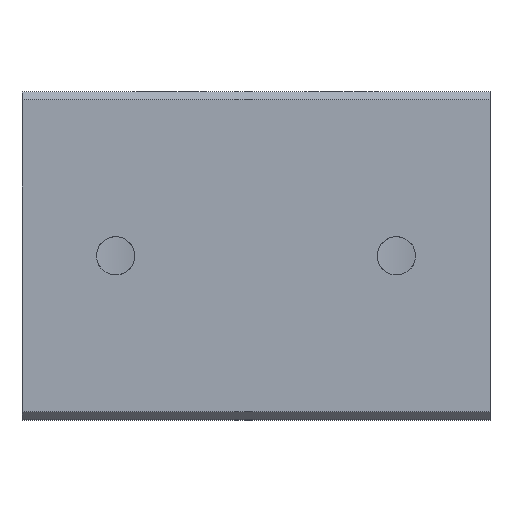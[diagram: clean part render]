
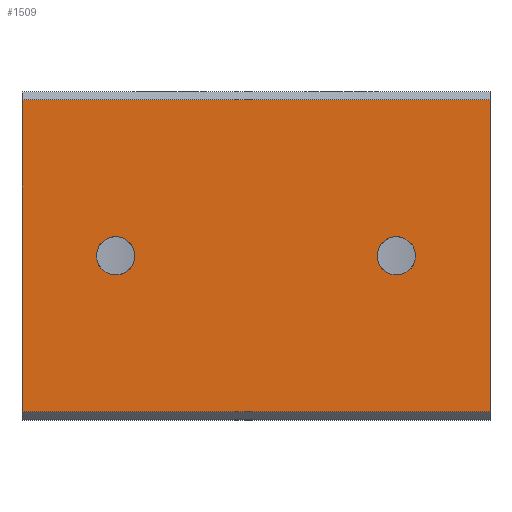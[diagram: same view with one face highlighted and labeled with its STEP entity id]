
A CAD part, top view. The second image highlights one B-rep face of the part: STEP entity #1509.
In plain terms, the highlighted planar face has unit normal (0, 0, 1).
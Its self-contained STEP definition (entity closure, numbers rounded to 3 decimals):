
#1357=CARTESIAN_POINT('',(60.0,-20.,28.));
#1358=VERTEX_POINT('',#1357);
#1365=CARTESIAN_POINT('',(0.0,-20.,28.));
#1366=VERTEX_POINT('',#1365);
#1367=CARTESIAN_POINT('',(60.0,-20.,28.));
#1368=DIRECTION('',(-1.0,0.0,0.0));
#1369=VECTOR('',#1368,60.0);
#1370=LINE('',#1367,#1369);
#1371=EDGE_CURVE('',#1358,#1366,#1370,.T.);
#1396=CARTESIAN_POINT('',(0.0,20.0,28.));
#1397=VERTEX_POINT('',#1396);
#1398=CARTESIAN_POINT('',(0.0,-20.,28.));
#1399=DIRECTION('',(0.0,1.0,0.0));
#1400=VECTOR('',#1399,40.0);
#1401=LINE('',#1398,#1400);
#1402=EDGE_CURVE('',#1366,#1397,#1401,.T.);
#1464=CARTESIAN_POINT('',(0.0,-21.,28.));
#1465=DIRECTION('',(0.0,0.0,1.0));
#1466=DIRECTION('',(1.0,0.0,0.0));
#1467=AXIS2_PLACEMENT_3D('',#1464,#1465,#1466);
#1468=PLANE('',#1467);
#1469=ORIENTED_EDGE('',*,*,#1371,.F.);
#1470=CARTESIAN_POINT('',(60.0,20.0,28.));
#1471=VERTEX_POINT('',#1470);
#1472=CARTESIAN_POINT('',(60.0,-20.,28.));
#1473=DIRECTION('',(0.0,1.0,0.0));
#1474=VECTOR('',#1473,40.0);
#1475=LINE('',#1472,#1474);
#1476=EDGE_CURVE('',#1358,#1471,#1475,.T.);
#1477=ORIENTED_EDGE('',*,*,#1476,.T.);
#1478=CARTESIAN_POINT('',(0.0,20.0,28.));
#1479=DIRECTION('',(1.0,0.0,0.0));
#1480=VECTOR('',#1479,60.0);
#1481=LINE('',#1478,#1480);
#1482=EDGE_CURVE('',#1397,#1471,#1481,.T.);
#1483=ORIENTED_EDGE('',*,*,#1482,.F.);
#1484=ORIENTED_EDGE('',*,*,#1402,.F.);
#1485=EDGE_LOOP('',(#1469,#1477,#1483,#1484));
#1486=FACE_OUTER_BOUND('',#1485,.T.);
#1487=CARTESIAN_POINT('',(14.458,0.0,28.));
#1488=VERTEX_POINT('',#1487);
#1489=CARTESIAN_POINT('',(12.,0.0,28.));
#1490=DIRECTION('',(0.0,0.0,-1.0));
#1491=DIRECTION('',(1.0,0.0,0.0));
#1492=AXIS2_PLACEMENT_3D('',#1489,#1490,#1491);
#1493=CIRCLE('',#1492,2.459);
#1494=EDGE_CURVE('',#1488,#1488,#1493,.T.);
#1495=ORIENTED_EDGE('',*,*,#1494,.T.);
#1496=EDGE_LOOP('',(#1495));
#1497=FACE_BOUND('',#1496,.T.);
#1498=CARTESIAN_POINT('',(50.459,0.,28.));
#1499=VERTEX_POINT('',#1498);
#1500=CARTESIAN_POINT('',(48.,0.,28.));
#1501=DIRECTION('',(0.0,0.0,-1.0));
#1502=DIRECTION('',(1.0,0.0,0.0));
#1503=AXIS2_PLACEMENT_3D('',#1500,#1501,#1502);
#1504=CIRCLE('',#1503,2.459);
#1505=EDGE_CURVE('',#1499,#1499,#1504,.T.);
#1506=ORIENTED_EDGE('',*,*,#1505,.T.);
#1507=EDGE_LOOP('',(#1506));
#1508=FACE_BOUND('',#1507,.T.);
#1509=ADVANCED_FACE('',(#1486,#1497,#1508),#1468,.T.);
